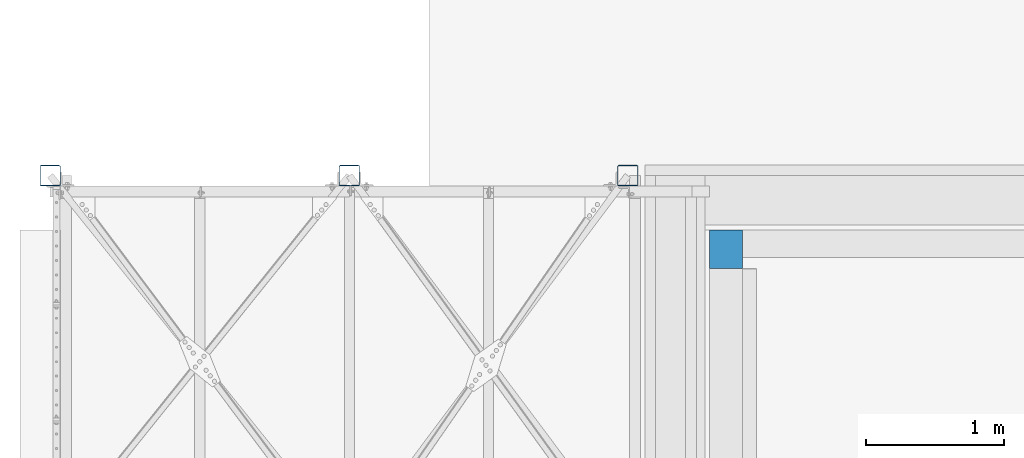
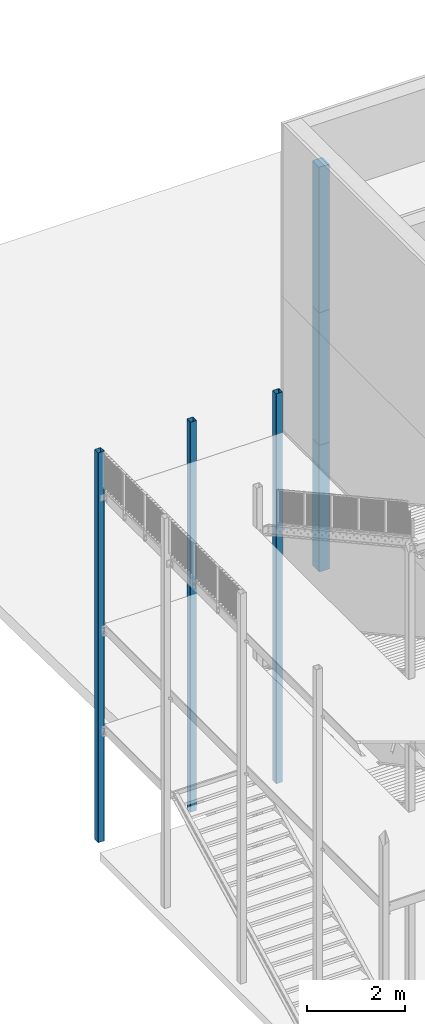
# One storey, part 7 of 78: 6 columns, 6 elements without a shape of their own.
"""IFC2X3 building model written with IfcOpenShell, lengths in millimetres."""

from ifc_helpers import new_model, si_unit, frame, origin_with_axes, origin_2d_with_axis, place, context, subcontext, project, spatial, rectangle, hollow_rectangle, extrude, material, type_object, element, aggregate, save


model = new_model("IFC2X3")

# Units and contexts
model_context = context("Model", 3, precision=1e-05, world=origin_with_axes())
body_context = subcontext(model_context, "Body", "Model", "MODEL_VIEW")
ifc_project = project(units=[si_unit("LENGTHUNIT", "METRE", prefix="MILLI"), si_unit("AREAUNIT", "SQUARE_METRE"), si_unit("VOLUMEUNIT", "CUBIC_METRE"), si_unit("MASSUNIT", "GRAM", prefix="KILO"), si_unit("TIMEUNIT", "SECOND"), si_unit("PLANEANGLEUNIT", "RADIAN"), si_unit("SOLIDANGLEUNIT", "STERADIAN"), si_unit("THERMODYNAMICTEMPERATUREUNIT", "DEGREE_CELSIUS"), si_unit("LUMINOUSINTENSITYUNIT", "LUMEN")], contexts=[model_context])

# Site, building, storey
site_placement = place(None, origin_with_axes())
site = spatial("IfcSite", under=ifc_project, at=site_placement, Name="Site", CompositionType="ELEMENT")
building_placement = place(site_placement, origin_with_axes())
building = spatial("IfcBuilding", under=site, at=building_placement, Name="Undefined", CompositionType="ELEMENT")
storey_placement = place(building_placement, origin_with_axes())
storey = spatial("IfcBuildingStorey", under=building, at=storey_placement, Name="Undefined", CompositionType="ELEMENT", Elevation=0.0)

# Assembly, column
assembly_1_placement = place(storey_placement, origin_with_axes())
assembly_1 = element("IfcElementAssembly", 1, at=assembly_1_placement, inside=storey, Name="POUTRE", AssemblyPlace="NOTDEFINED", PredefinedType="NOTDEFINED")
ifc_material_1 = material(Name="TIMBER/CHENE")
column_type_1 = type_object("IfcColumnType", Name="240*280", PredefinedType="NOTDEFINED")
column_1_placement = place(assembly_1_placement, frame((-30483.441930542, 12275.0010108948, 159850.03746582), z_axis=(0.0, 0.0, 1.0), x_axis=(-1.0, 0.0, 0.0)))
column_1 = element("IfcColumn", 2, at=column_1_placement, type_object=column_type_1, material=ifc_material_1, Name="POUTRE", ObjectType="240*280", context=body_context, shape_type="SweptSolid", body=[
    extrude(rectangle(XDim=280.0, YDim=240.0, at=origin_2d_with_axis()), frame((0.0, 0.0, 3620.01389648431), z_axis=(0.0, 0.0, -1.0), x_axis=(0.0, 1.0, 0.0)), (0.0, 0.0, 1.0), 3620.01),
])
aggregate(assembly_1, [column_1])

assembly_2_placement = place(storey_placement, origin_with_axes())
assembly_2 = element("IfcElementAssembly", 3, at=assembly_2_placement, inside=storey, Name="POUTRE", AssemblyPlace="NOTDEFINED", PredefinedType="NOTDEFINED")
column_2_placement = place(assembly_2_placement, frame((-30483.441930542, 12275.0010108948, 156550.033569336), z_axis=(0.0, 0.0, 1.0), x_axis=(-1.0, 0.0, 0.0)))
column_2 = element("IfcColumn", 4, at=column_2_placement, type_object=column_type_1, material=ifc_material_1, Name="POUTRE", ObjectType="240*280", context=body_context, shape_type="SweptSolid", body=[
    extrude(rectangle(XDim=280.0, YDim=240.0, at=origin_2d_with_axis()), frame((0.0, 0.0, 3300.0038964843), z_axis=(0.0, 0.0, -1.0), x_axis=(0.0, 1.0, 0.0)), (0.0, 0.0, 1.0), 3300.0),
])
aggregate(assembly_2, [column_2])

assembly_3_placement = place(storey_placement, origin_with_axes())
assembly_3 = element("IfcElementAssembly", 5, at=assembly_3_placement, inside=storey, Name="POUTRE", AssemblyPlace="NOTDEFINED", PredefinedType="NOTDEFINED")
column_3_placement = place(assembly_3_placement, frame((-30483.441930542, 12275.0010108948, 153400.039672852), z_axis=(0.0, 0.0, 1.0), x_axis=(-1.0, 0.0, 0.0)))
column_3 = element("IfcColumn", 6, at=column_3_placement, type_object=column_type_1, material=ifc_material_1, Name="POUTRE", ObjectType="240*280", context=body_context, shape_type="SweptSolid", body=[
    extrude(rectangle(XDim=280.0, YDim=240.0, at=origin_2d_with_axis()), frame((0.0, 0.0, 3149.99389648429), z_axis=(0.0, 0.0, -1.0), x_axis=(0.0, 1.0, 0.0)), (0.0, 0.0, 1.0), 3149.99),
])
aggregate(assembly_3, [column_3])

assembly_4_placement = place(storey_placement, origin_with_axes())
assembly_4 = element("IfcElementAssembly", 7, at=assembly_4_placement, inside=storey, Name="POTEAU", AssemblyPlace="NOTDEFINED", PredefinedType="RIGID_FRAME")
ifc_material_2 = material(Name="STEEL/S275JR")
column_type_2 = type_object("IfcColumnType", Name="TUBE-C-150*150*5", PredefinedType="NOTDEFINED")
column_4_placement = place(assembly_4_placement, frame((-31196.43, 12808.0, 148000.04), z_axis=(0.0, 0.0, 1.0), x_axis=(0.0, 1.0, 0.0)))
column_4 = element("IfcColumn", 8, at=column_4_placement, type_object=column_type_2, material=ifc_material_2, Name="POTEAU", ObjectType="TUBE-C-150*150*5", context=body_context, shape_type="SweptSolid", body=[
    extrude(hollow_rectangle(XDim=150.0, YDim=150.0, WallThickness=5.0, InnerFilletRadius=5.0, OuterFilletRadius=10.0, at=origin_2d_with_axis()), frame((0.0, 0.0, 9699.99999979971), z_axis=(0.0, 0.0, -1.0), x_axis=(0.0, 1.0, 0.0)), (0.0, 0.0, 1.0), 9700.0),
])
aggregate(assembly_4, [column_4])

assembly_5_placement = place(storey_placement, origin_with_axes())
assembly_5 = element("IfcElementAssembly", 9, at=assembly_5_placement, inside=storey, Name="POTEAU", AssemblyPlace="NOTDEFINED", PredefinedType="RIGID_FRAME")
column_5_placement = place(assembly_5_placement, frame((-33216.43, 12808.0, 148000.04), z_axis=(0.0, 0.0, 1.0), x_axis=(0.0, 1.0, 0.0)))
column_5 = element("IfcColumn", 10, at=column_5_placement, type_object=column_type_2, material=ifc_material_2, Name="POTEAU", ObjectType="TUBE-C-150*150*5", context=body_context, shape_type="SweptSolid", body=[
    extrude(hollow_rectangle(XDim=150.0, YDim=150.0, WallThickness=5.0, InnerFilletRadius=5.0, OuterFilletRadius=10.0, at=origin_2d_with_axis()), frame((0.0, 0.0, 9699.99999979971), z_axis=(0.0, 0.0, -1.0), x_axis=(0.0, 1.0, 0.0)), (0.0, 0.0, 1.0), 9700.0),
])
aggregate(assembly_5, [column_5])

assembly_6_placement = place(storey_placement, origin_with_axes())
assembly_6 = element("IfcElementAssembly", 11, at=assembly_6_placement, inside=storey, Name="POTEAU", AssemblyPlace="NOTDEFINED", PredefinedType="RIGID_FRAME")
column_6_placement = place(assembly_6_placement, frame((-35386.43, 12808.0, 148000.04), z_axis=(0.0, 0.0, 1.0), x_axis=(0.0, 1.0, 0.0)))
column_6 = element("IfcColumn", 12, at=column_6_placement, type_object=column_type_2, material=ifc_material_2, Name="POTEAU", ObjectType="TUBE-C-150*150*5", context=body_context, shape_type="SweptSolid", body=[
    extrude(hollow_rectangle(XDim=150.0, YDim=150.0, WallThickness=5.0, InnerFilletRadius=5.0, OuterFilletRadius=10.0, at=origin_2d_with_axis()), frame((0.0, 0.0, 9699.99999979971), z_axis=(0.0, 0.0, -1.0), x_axis=(0.0, 1.0, 0.0)), (0.0, 0.0, 1.0), 9700.0),
])
aggregate(assembly_6, [column_6])

save(model, "model.ifc")
